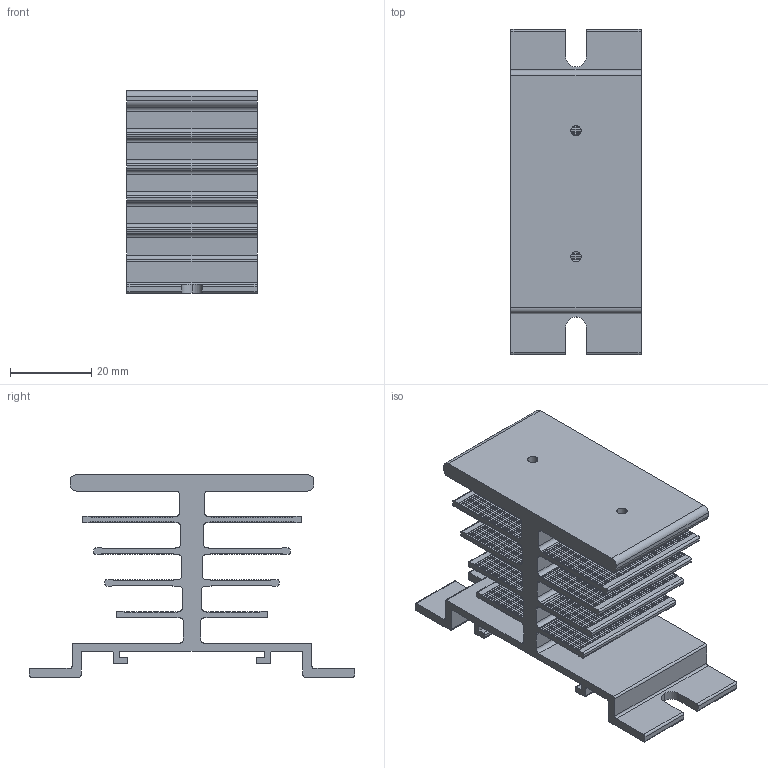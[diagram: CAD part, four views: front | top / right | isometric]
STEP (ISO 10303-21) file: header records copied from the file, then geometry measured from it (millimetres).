
FILE_DESCRIPTION (( 'STEP AP214' ), '1' );
FILE_NAME ('HS_010.STEP', '2024-04-12T07:45:39', ( '' ), ( '' ), 'SwSTEP 2.0', 'SolidWorks 2022', '' );
FILE_SCHEMA (( 'AUTOMOTIVE_DESIGN' ));
Length unit declared in the file: millimetre
Products named in the file (1): HS_010
Bounding box: 32 x 80 x 49.8 mm (x, y, z)
Volume: 27255.1 mm3; surface area: 25479.1 mm2
Topology: 1 solids, 1 shells, 1067 faces, 3195 edges, 2130 vertices
Faces by surface type: cylinder 979, plane 88
Entity records: 37169 total; most frequent: DIRECTION 7289, CARTESIAN_POINT 6393, ORIENTED_EDGE 6390, EDGE_CURVE 3195, AXIS2_PLACEMENT_3D 3026, VERTEX_POINT 2130, CIRCLE 1958, VECTOR 1237
